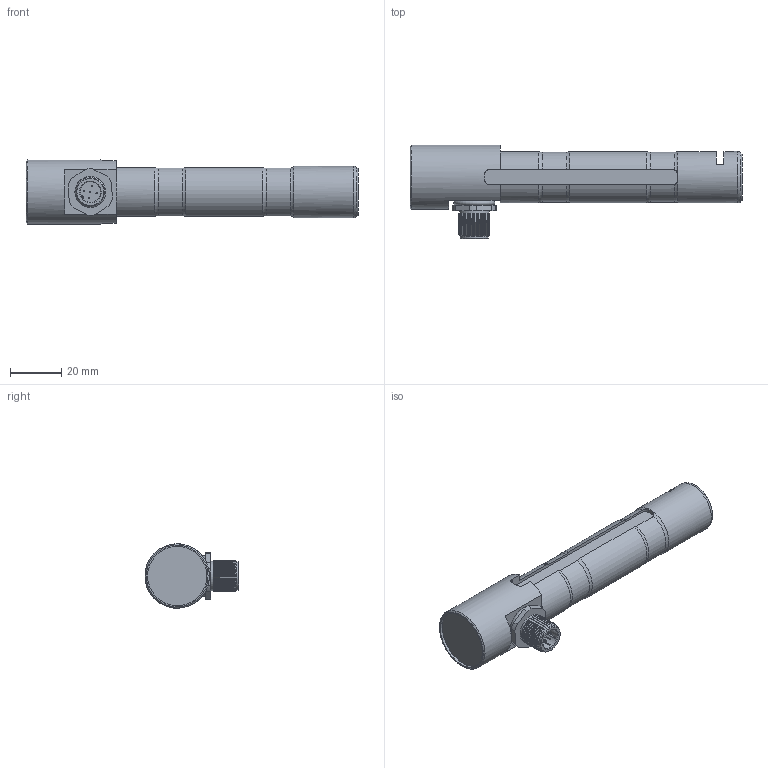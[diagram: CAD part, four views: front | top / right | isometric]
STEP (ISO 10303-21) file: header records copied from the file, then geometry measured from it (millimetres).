
FILE_DESCRIPTION(/* description */ ('Alibre Inc.'),/* implementation_level */ '2;1');
FILE_NAME(/* name */ 'export-45CA8E54-B8B2-4567-964E-57C8E774B0A8',/* time_stamp */ '2021-11-16T08:17:24+01:00',/* author */ (''),/* organization */ (''),/* preprocessor_version */ 'ST-DEVELOPER v17',/* originating_system */ 'Alibre',/* authorisation */ '');
FILE_SCHEMA (('CONFIG_CONTROL_DESIGN'));
Length unit declared in the file: millimetre
Bounding box: 129 x 36.5 x 25 mm (x, y, z)
Surface area: 163969.5 mm2
Topology: 7 solids, 8 shells, 213 faces, 468 edges, 278 vertices
Faces by surface type: cone 71, cylinder 71, plane 60, torus 11
Full cylindrical faces by diameter (mm): 0.5 x10, 8 x2, 10 x1, 11 x1, 11.5 x1, 12 x21, 13 x2, 14.5 x1, 20 x1, 23 x1, 25 x1
Entity records: 5079 total; most frequent: CARTESIAN_POINT 1091, ORIENTED_EDGE 728, DIRECTION 650, EDGE_CURVE 358, EDGE_LOOP 327, FACE_BOUND 327, AXIS2_PLACEMENT_3D 302, VERTEX_POINT 263
